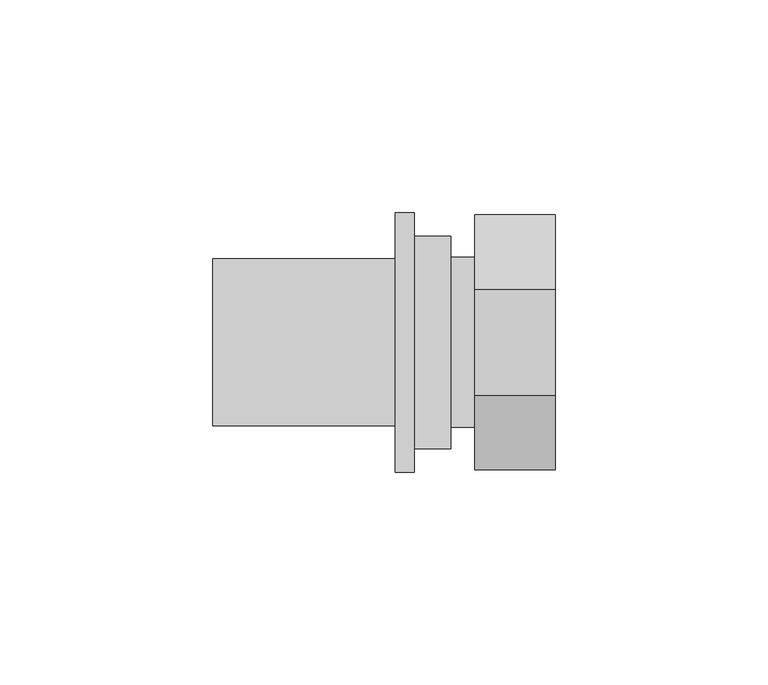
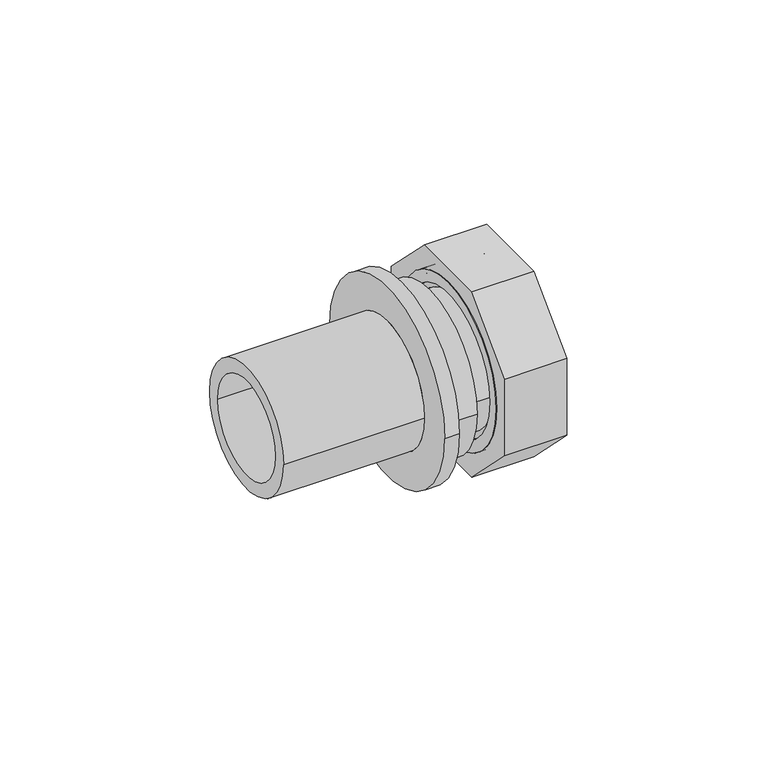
"""IFC4 building model written with IfcOpenShell, lengths in millimetres: pipe fitting geometry, REHAU_RAUTITAN_Adaptor_RX+_union nut : REHAU_RAUTITAN_Adaptor_RX+_union nut."""

from ifc_helpers import new_model, si_unit, point, frame, origin, origin_2d, place, context, project, spatial, polyline, circle_curve, trimmed, segment, composite_curve, outline, extrude, source, transform, mapped, element, save
from ifc_brep_helpers import plane_surface, cylinder_surface, revolved_surface, advanced_brep


def pipe_fitting_183dbd39(model_context):
    return source(origin(), model_context, "Body", "SolidModel", [
        advanced_brep(
        [(0.0, 25.0, 0.0), (0.0, -25.0, 0.0), (-8.55, -25.0, 0.0), (-8.55, 25.0, 0.0), (-56.0, 15.25, 0.0), (-56.0, -15.25, 0.0), (0.0, -15.25, 0.0), (0.0, 15.25, 0.0), (-13.0, 19.6, 0.0), (-13.0, -19.6, 0.0), (-56.0, -19.6, 0.0), (-56.0, 19.6, 0.0), (-8.55, 30.5, 0.0), (-8.55, -30.5, 0.0), (-13.0, -30.5, 0.0), (-13.0, 30.5, 0.0)],
        [
            (0, 1, circle_curve(frame((0.0, 0.0, 0.0), z_axis=(-1.0, 0.0, 0.0), x_axis=(0.0, -1.0, 0.0)), 25.0)),
            (1, 2),
            (2, 3, circle_curve(frame((-8.55, 0.0, 0.0), z_axis=(1.0, 0.0, 0.0), x_axis=(0.0, -1.0, 0.0)), 25.0)),
            (3, 0),
            (4, 5, circle_curve(frame((-56.0, 0.0, 0.0), z_axis=(-1.0, 0.0, 0.0), x_axis=(0.0, -1.0, 0.0)), 15.25)),
            (5, 6),
            (6, 7, circle_curve(frame((0.0, 0.0, 0.0), z_axis=(1.0, 0.0, 0.0), x_axis=(0.0, -1.0, 0.0)), 15.25)),
            (7, 4),
            (8, 9, circle_curve(frame((-13.0, 0.0, 0.0), z_axis=(-1.0, 0.0, 0.0), x_axis=(0.0, -1.0, 0.0)), 19.6)),
            (9, 10),
            (10, 11, circle_curve(frame((-56.0, 0.0, 0.0), z_axis=(1.0, 0.0, 0.0), x_axis=(0.0, -1.0, 0.0)), 19.6)),
            (11, 8),
            (12, 13, circle_curve(frame((-8.55, 0.0, 0.0), z_axis=(-1.0, 0.0, 0.0), x_axis=(0.0, -1.0, 0.0)), 30.5)),
            (13, 14),
            (14, 15, circle_curve(frame((-13.0, 0.0, 0.0), z_axis=(1.0, 0.0, 0.0), x_axis=(0.0, -1.0, 0.0)), 30.5)),
            (15, 12),
            (1, 0, circle_curve(frame((0.0, 0.0, 0.0), z_axis=(-1.0, 0.0, 0.0), x_axis=(0.0, 1.0, 0.0)), 25.0)),
            (3, 2, circle_curve(frame((-8.55, 0.0, 0.0), z_axis=(1.0, 0.0, 0.0), x_axis=(0.0, 1.0, 0.0)), 25.0)),
            (6, 7, circle_curve(frame((0.0, 0.0, 0.0), z_axis=(-1.0, 0.0, 0.0), x_axis=(0.0, 1.0, 0.0)), 15.25)),
            (5, 4, circle_curve(frame((-56.0, 0.0, 0.0), z_axis=(-1.0, 0.0, 0.0), x_axis=(0.0, 1.0, 0.0)), 15.25)),
            (10, 11, circle_curve(frame((-56.0, 0.0, 0.0), z_axis=(-1.0, 0.0, 0.0), x_axis=(0.0, 1.0, 0.0)), 19.6)),
            (9, 8, circle_curve(frame((-13.0, 0.0, 0.0), z_axis=(-1.0, 0.0, 0.0), x_axis=(0.0, 1.0, 0.0)), 19.6)),
            (14, 15, circle_curve(frame((-13.0, 0.0, 0.0), z_axis=(-1.0, 0.0, 0.0), x_axis=(0.0, 1.0, 0.0)), 30.5)),
            (13, 12, circle_curve(frame((-8.55, 0.0, 0.0), z_axis=(-1.0, 0.0, 0.0), x_axis=(0.0, 1.0, 0.0)), 30.5)),
        ],
        [
            cylinder_surface(frame((0.0, 0.0, 0.0), z_axis=(1.0, 0.0, 0.0), x_axis=(0.0, -1.0, 0.0)), 25.0),
            revolved_surface(polyline([(0.0, -15.25, 0.0), (-56.0, -15.25, 0.0)]), (0.0, 0.0, 0.0), (1.0, 0.0, 0.0)),
            cylinder_surface(frame((0.0, 0.0, 0.0), z_axis=(1.0, 0.0, 0.0), x_axis=(0.0, -1.0, 0.0)), 19.6),
            cylinder_surface(frame((0.0, 0.0, 0.0), z_axis=(1.0, 0.0, 0.0), x_axis=(0.0, -1.0, 0.0)), 30.5),
            cylinder_surface(frame((0.0, 0.0, 0.0), z_axis=(1.0, 0.0, 0.0), x_axis=(0.0, 1.0, 0.0)), 25.0),
            plane_surface(frame((0.0, 0.0, 0.0), z_axis=(1.0, 0.0, 0.0), x_axis=(0.0, 1.0, 0.0))),
            revolved_surface(polyline([(0.0, 15.25, 0.0), (-56.0, 15.25, 0.0)]), (0.0, 0.0, 0.0), (1.0, 0.0, 0.0)),
            plane_surface(frame((-56.0, 0.0, 0.0), z_axis=(-1.0, 0.0, 0.0), x_axis=(0.0, 1.0, 0.0))),
            cylinder_surface(frame((0.0, 0.0, 0.0), z_axis=(1.0, 0.0, 0.0), x_axis=(0.0, 1.0, 0.0)), 19.6),
            plane_surface(frame((-13.0, 0.0, 0.0), z_axis=(-1.0, 0.0, 0.0), x_axis=(0.0, 1.0, 0.0))),
            cylinder_surface(frame((0.0, 0.0, 0.0), z_axis=(1.0, 0.0, 0.0), x_axis=(0.0, 1.0, 0.0)), 30.5),
            plane_surface(frame((-8.55, 0.0, 0.0), z_axis=(1.0, 0.0, 0.0), x_axis=(0.0, 1.0, 0.0))),
        ],
        [
            (0, [[1, 2, 3, 4]]),
            (1, [[5, 6, 7, 8]]),
            (2, [[9, 10, 11, 12]]),
            (3, [[13, 14, 15, 16]]),
            (4, [[17, -4, 18, -2]]),
            (5, [[-17, -1], [19, -7]]),
            (6, [[20, -8, -19, -6]]),
            (7, [[21, -11], [-20, -5]]),
            (8, [[22, -12, -21, -10]]),
            (9, [[23, -15], [-22, -9]]),
            (10, [[24, -16, -23, -14]]),
            (11, [[-24, -13], [-18, -3]]),
        ],
    ),
        advanced_brep(
        [(7.6, 20.0, 0.0), (7.6, -20.0, 0.0), (0.0, -20.0, 0.0), (0.0, 20.0, 0.0), (11.0, 23.95, 0.0), (11.0, -23.95, 0.0), (7.6, -23.95, 0.0), (7.6, 23.95, 0.0), (1.4730817, 13.5, 0.0), (1.4730817, -13.5, 0.0), (11.0, -13.5, 0.0), (11.0, 13.5, 0.0), (0.0, 11.3264556, 0.0), (0.0, -11.3264556, 0.0), (1.4730817, -11.3264556, 0.0), (1.4730817, 11.3264556, 0.0)],
        [
            (0, 1, circle_curve(frame((7.6, 0.0, 0.0), z_axis=(-1.0, 0.0, 0.0), x_axis=(0.0, -1.0, 0.0)), 20.0)),
            (1, 2),
            (2, 3, circle_curve(frame((0.0, 0.0, 0.0), z_axis=(1.0, 0.0, 0.0), x_axis=(0.0, -1.0, 0.0)), 20.0)),
            (3, 0),
            (4, 5, circle_curve(frame((11.0, 0.0, 0.0), z_axis=(-1.0, 0.0, 0.0), x_axis=(0.0, -1.0, 0.0)), 23.95)),
            (5, 6),
            (6, 7, circle_curve(frame((7.6, 0.0, 0.0), z_axis=(1.0, 0.0, 0.0), x_axis=(0.0, -1.0, 0.0)), 23.95)),
            (7, 4),
            (8, 9, circle_curve(frame((1.4730817, 0.0, 0.0), z_axis=(-1.0, 0.0, 0.0), x_axis=(0.0, -1.0, 0.0)), 13.5)),
            (9, 10),
            (10, 11, circle_curve(frame((11.0, 0.0, 0.0), z_axis=(1.0, 0.0, 0.0), x_axis=(0.0, -1.0, 0.0)), 13.5)),
            (11, 8),
            (2, 3, circle_curve(frame((0.0, 0.0, 0.0), z_axis=(-1.0, 0.0, 0.0), x_axis=(0.0, 1.0, 0.0)), 20.0)),
            (12, 13, circle_curve(frame((0.0, 0.0, 0.0), z_axis=(1.0, 0.0, 0.0), x_axis=(0.0, 1.0, 0.0)), 11.3264556)),
            (13, 12, circle_curve(frame((0.0, 0.0, 0.0), z_axis=(1.0, 0.0, 0.0), x_axis=(0.0, -1.0, 0.0)), 11.3264556)),
            (1, 0, circle_curve(frame((7.6, 0.0, 0.0), z_axis=(-1.0, 0.0, 0.0), x_axis=(0.0, 1.0, 0.0)), 20.0)),
            (6, 7, circle_curve(frame((7.6, 0.0, 0.0), z_axis=(-1.0, 0.0, 0.0), x_axis=(0.0, 1.0, 0.0)), 23.95)),
            (5, 4, circle_curve(frame((11.0, 0.0, 0.0), z_axis=(-1.0, 0.0, 0.0), x_axis=(0.0, 1.0, 0.0)), 23.95)),
            (10, 11, circle_curve(frame((11.0, 0.0, 0.0), z_axis=(-1.0, 0.0, 0.0), x_axis=(0.0, 1.0, 0.0)), 13.5)),
            (9, 8, circle_curve(frame((1.4730817, 0.0, 0.0), z_axis=(-1.0, 0.0, 0.0), x_axis=(0.0, 1.0, 0.0)), 13.5)),
            (13, 14),
            (14, 15, circle_curve(frame((1.4730817, 0.0, 0.0), z_axis=(1.0, 0.0, 0.0), x_axis=(0.0, -1.0, 0.0)), 11.3264556)),
            (15, 12),
            (14, 15, circle_curve(frame((1.4730817, 0.0, 0.0), z_axis=(-1.0, 0.0, 0.0), x_axis=(0.0, 1.0, 0.0)), 11.3264556)),
        ],
        [
            cylinder_surface(frame((0.0, 0.0, 0.0), z_axis=(1.0, 0.0, 0.0), x_axis=(0.0, -1.0, 0.0)), 20.0),
            cylinder_surface(frame((0.0, 0.0, 0.0), z_axis=(1.0, 0.0, 0.0), x_axis=(0.0, -1.0, 0.0)), 23.95),
            revolved_surface(polyline([(11.0, -13.5, 0.0), (1.4730817, -13.5, 0.0)]), (0.0, 0.0, 0.0), (1.0, 0.0, 0.0)),
            plane_surface(frame((0.0, 0.0, 0.0), z_axis=(-1.0, 0.0, 0.0), x_axis=(0.0, 1.0, 0.0))),
            cylinder_surface(frame((0.0, 0.0, 0.0), z_axis=(1.0, 0.0, 0.0), x_axis=(0.0, 1.0, 0.0)), 20.0),
            plane_surface(frame((7.6, 0.0, 0.0), z_axis=(-1.0, 0.0, 0.0), x_axis=(0.0, 1.0, 0.0))),
            cylinder_surface(frame((0.0, 0.0, 0.0), z_axis=(1.0, 0.0, 0.0), x_axis=(0.0, 1.0, 0.0)), 23.95),
            plane_surface(frame((11.0, 0.0, 0.0), z_axis=(1.0, 0.0, 0.0), x_axis=(0.0, 1.0, 0.0))),
            revolved_surface(polyline([(11.0, 13.5, 0.0), (1.4730817, 13.5, 0.0)]), (0.0, 0.0, 0.0), (1.0, 0.0, 0.0)),
            revolved_surface(polyline([(1.4730817, -11.3264556, 0.0), (0.0, -11.3264556, 0.0)]), (0.0, 0.0, 0.0), (1.0, 0.0, 0.0)),
            plane_surface(frame((1.4730817, 0.0, 0.0), z_axis=(1.0, 0.0, 0.0), x_axis=(0.0, 1.0, 0.0))),
            revolved_surface(polyline([(1.4730817, 11.3264556, 0.0), (0.0, 11.3264556, 0.0)]), (0.0, 0.0, 0.0), (1.0, 0.0, 0.0)),
        ],
        [
            (0, [[1, 2, 3, 4]]),
            (1, [[5, 6, 7, 8]]),
            (2, [[9, 10, 11, 12]]),
            (3, [[13, -3], [14, 15]]),
            (4, [[16, -4, -13, -2]]),
            (5, [[17, -7], [-16, -1]]),
            (6, [[18, -8, -17, -6]]),
            (7, [[-18, -5], [19, -11]]),
            (8, [[20, -12, -19, -10]]),
            (9, [[-15, 21, 22, 23]]),
            (10, [[-20, -9], [24, -22]]),
            (11, [[-14, -23, -24, -21]]),
        ],
    ),
        advanced_brep(
        [(24.6, 25.5, 0.0), (24.6, -25.5, 0.0), (5.6, -25.5, 0.0), (5.6, 25.5, 0.0), (7.6, 23.95, 0.0), (7.6, -23.95, 0.0), (24.6, -23.95, 0.0), (24.6, 23.95, 0.0), (5.6, 21.95, 0.0), (5.6, -21.95, 0.0), (7.6, -21.95, 0.0), (7.6, 21.95, 0.0)],
        [
            (0, 1, circle_curve(frame((24.6, 0.0, 0.0), z_axis=(-1.0, 0.0, 0.0), x_axis=(0.0, -1.0, 0.0)), 25.5)),
            (1, 2),
            (2, 3, circle_curve(frame((5.6, 0.0, 0.0), z_axis=(1.0, 0.0, 0.0), x_axis=(0.0, -1.0, 0.0)), 25.5)),
            (3, 0),
            (4, 5, circle_curve(frame((7.6, 0.0, 0.0), z_axis=(-1.0, 0.0, 0.0), x_axis=(0.0, -1.0, 0.0)), 23.95)),
            (5, 6),
            (6, 7, circle_curve(frame((24.6, 0.0, 0.0), z_axis=(1.0, 0.0, 0.0), x_axis=(0.0, -1.0, 0.0)), 23.95)),
            (7, 4),
            (8, 9, circle_curve(frame((5.6, 0.0, 0.0), z_axis=(-1.0, 0.0, 0.0), x_axis=(0.0, -1.0, 0.0)), 21.95)),
            (9, 10),
            (10, 11, circle_curve(frame((7.6, 0.0, 0.0), z_axis=(1.0, 0.0, 0.0), x_axis=(0.0, -1.0, 0.0)), 21.95)),
            (11, 8),
            (1, 0, circle_curve(frame((24.6, 0.0, 0.0), z_axis=(-1.0, 0.0, 0.0), x_axis=(0.0, 1.0, 0.0)), 25.5)),
            (3, 2, circle_curve(frame((5.6, 0.0, 0.0), z_axis=(1.0, 0.0, 0.0), x_axis=(0.0, 1.0, 0.0)), 25.5)),
            (6, 7, circle_curve(frame((24.6, 0.0, 0.0), z_axis=(-1.0, 0.0, 0.0), x_axis=(0.0, 1.0, 0.0)), 23.95)),
            (5, 4, circle_curve(frame((7.6, 0.0, 0.0), z_axis=(-1.0, 0.0, 0.0), x_axis=(0.0, 1.0, 0.0)), 23.95)),
            (10, 11, circle_curve(frame((7.6, 0.0, 0.0), z_axis=(-1.0, 0.0, 0.0), x_axis=(0.0, 1.0, 0.0)), 21.95)),
            (9, 8, circle_curve(frame((5.6, 0.0, 0.0), z_axis=(-1.0, 0.0, 0.0), x_axis=(0.0, 1.0, 0.0)), 21.95)),
        ],
        [
            cylinder_surface(frame((0.0, 0.0, 0.0), z_axis=(1.0, 0.0, 0.0), x_axis=(0.0, -1.0, 0.0)), 25.5),
            revolved_surface(polyline([(24.6, -23.95, 0.0), (7.6, -23.95, 0.0)]), (0.0, 0.0, 0.0), (1.0, 0.0, 0.0)),
            revolved_surface(polyline([(7.6, -21.95, 0.0), (5.6, -21.95, 0.0)]), (0.0, 0.0, 0.0), (1.0, 0.0, 0.0)),
            cylinder_surface(frame((0.0, 0.0, 0.0), z_axis=(1.0, 0.0, 0.0), x_axis=(0.0, 1.0, 0.0)), 25.5),
            plane_surface(frame((24.6, 0.0, 0.0), z_axis=(1.0, 0.0, 0.0), x_axis=(0.0, 1.0, 0.0))),
            revolved_surface(polyline([(24.6, 23.95, 0.0), (7.6, 23.95, 0.0)]), (0.0, 0.0, 0.0), (1.0, 0.0, 0.0)),
            plane_surface(frame((7.6, 0.0, 0.0), z_axis=(1.0, 0.0, 0.0), x_axis=(0.0, 1.0, 0.0))),
            revolved_surface(polyline([(7.6, 21.95, 0.0), (5.6, 21.95, 0.0)]), (0.0, 0.0, 0.0), (1.0, 0.0, 0.0)),
            plane_surface(frame((5.6, 0.0, 0.0), z_axis=(-1.0, 0.0, 0.0), x_axis=(0.0, 1.0, 0.0))),
        ],
        [
            (0, [[1, 2, 3, 4]]),
            (1, [[5, 6, 7, 8]]),
            (2, [[9, 10, 11, 12]]),
            (3, [[13, -4, 14, -2]]),
            (4, [[-13, -1], [15, -7]]),
            (5, [[16, -8, -15, -6]]),
            (6, [[-16, -5], [17, -11]]),
            (7, [[18, -12, -17, -10]]),
            (8, [[-14, -3], [-18, -9]]),
        ],
    ),
        extrude(outline(polyline([(-12.4264069, -30.0), (-30.0, -12.4264069), (-30.0, 12.4264069), (-12.4264069, 30.0), (12.4264069, 30.0), (30.0, 12.4264069), (30.0, -12.4264069), (12.4264069, -30.0), (-12.4264069, -30.0)]), holes=[composite_curve([segment(trimmed(circle_curve(origin_2d(), 25.5), [point((-25.5, 0.0))], [point((25.5, 0.0))], True, "CARTESIAN"), True, "CONTINUOUS"), segment(trimmed(circle_curve(origin_2d(), 25.5), [point((25.5, 0.0))], [point((-25.5, 0.0))], True, "CARTESIAN"), True, "CONTINUOUS")], self_intersect=False)]), frame((5.6, 0.0, 0.0), z_axis=(1.0, 0.0, 0.0), x_axis=(0.0, 1.0, 0.0)), (0.0, 0.0, 1.0), 19.0),
    ])


if __name__ == "__main__":
    model = new_model("IFC4")
    model_context = context("Model", 3, world=origin())
    ifc_project = project(units=[si_unit("LENGTHUNIT", "METRE", prefix="MILLI")], contexts=[model_context])
    site = spatial("IfcSite", under=ifc_project)
    building = spatial("IfcBuilding", under=site)
    placement = place(None, origin())
    pipe_fitting_shape = pipe_fitting_183dbd39(model_context)
    element("IfcPipeFitting", 1, ObjectType="REHAU_RAUTITAN_Adaptor_RX+_union nut : REHAU_RAUTITAN_Adaptor_RX+_union nut", at=placement, inside=building, context=model_context, shape_type="MappedRepresentation", body=[
        mapped(pipe_fitting_shape, transform((0.0, 0.0, 0.0), x_axis=(1.0, 0.0, 0.0), y_axis=(0.0, 1.0, 0.0), z_axis=(0.0, 0.0, 1.0))),
    ])
    save(model, "model.ifc")
